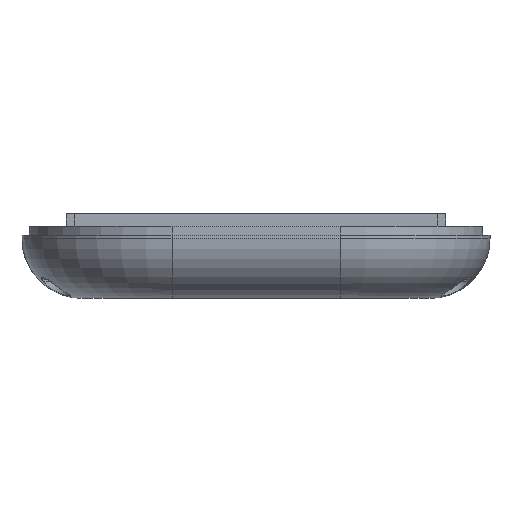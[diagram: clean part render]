
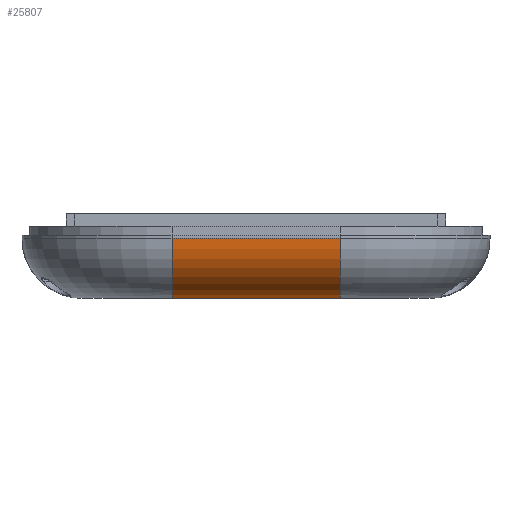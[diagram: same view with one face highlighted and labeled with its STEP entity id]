
A CAD part, front view. The second image highlights one B-rep face of the part: STEP entity #25807.
In plain terms, the highlighted cylindrical face has radius 10 mm (diameter 20 mm), a partial arc.
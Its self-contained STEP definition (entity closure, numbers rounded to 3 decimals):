
#107 = TOROIDAL_SURFACE('',#108,15.,10.);
#108 = AXIS2_PLACEMENT_3D('',#109,#110,#111);
#109 = CARTESIAN_POINT('',(-14.,-50.,-14.));
#110 = DIRECTION('',(0.,0.,-1.));
#111 = DIRECTION('',(-1.,0.,0.));
#1397 = VERTEX_POINT('',#1398);
#1398 = CARTESIAN_POINT('',(-14.,-65.,-24.));
#1413 = PLANE('',#1414);
#1414 = AXIS2_PLACEMENT_3D('',#1415,#1416,#1417);
#1415 = CARTESIAN_POINT('',(0.,0.,-24.));
#1416 = DIRECTION('',(0.,0.,-1.));
#1417 = DIRECTION('',(-1.,0.,0.));
#1429 = EDGE_CURVE('',#1430,#1397,#1432,.T.);
#1430 = VERTEX_POINT('',#1431);
#1431 = CARTESIAN_POINT('',(-14.,-75.,-14.));
#1432 = SURFACE_CURVE('',#1433,(#1438,#1445),.PCURVE_S1.);
#1433 = CIRCLE('',#1434,10.);
#1434 = AXIS2_PLACEMENT_3D('',#1435,#1436,#1437);
#1435 = CARTESIAN_POINT('',(-14.,-65.,-14.));
#1436 = DIRECTION('',(1.,0.,0.));
#1437 = DIRECTION('',(0.,-1.,0.));
#1438 = PCURVE('',#107,#1439);
#1439 = DEFINITIONAL_REPRESENTATION('',(#1440),#1444);
#1440 = LINE('',#1441,#1442);
#1441 = CARTESIAN_POINT('',(4.712,0.));
#1442 = VECTOR('',#1443,1.);
#1443 = DIRECTION('',(0.,1.));
#1444 = ( GEOMETRIC_REPRESENTATION_CONTEXT(2) 
PARAMETRIC_REPRESENTATION_CONTEXT() REPRESENTATION_CONTEXT('2D SPACE',''
  ) );
#1445 = PCURVE('',#1446,#1451);
#1446 = CYLINDRICAL_SURFACE('',#1447,10.);
#1447 = AXIS2_PLACEMENT_3D('',#1448,#1449,#1450);
#1448 = CARTESIAN_POINT('',(7.,-65.,-14.));
#1449 = DIRECTION('',(-1.,0.,0.));
#1450 = DIRECTION('',(0.,-0.707,-0.707));
#1451 = DEFINITIONAL_REPRESENTATION('',(#1452),#1456);
#1452 = LINE('',#1453,#1454);
#1453 = CARTESIAN_POINT('',(7.069,21.));
#1454 = VECTOR('',#1455,1.);
#1455 = DIRECTION('',(-1.,0.));
#1456 = ( GEOMETRIC_REPRESENTATION_CONTEXT(2) 
PARAMETRIC_REPRESENTATION_CONTEXT() REPRESENTATION_CONTEXT('2D SPACE',''
  ) );
#8926 = PLANE('',#8927);
#8927 = AXIS2_PLACEMENT_3D('',#8928,#8929,#8930);
#8928 = CARTESIAN_POINT('',(14.,-75.,-12.));
#8929 = DIRECTION('',(0.,-1.,0.));
#8930 = DIRECTION('',(-1.,0.,0.));
#8972 = VERTEX_POINT('',#8973);
#8973 = CARTESIAN_POINT('',(14.,-65.,-24.));
#8992 = TOROIDAL_SURFACE('',#8993,15.,10.);
#8993 = AXIS2_PLACEMENT_3D('',#8994,#8995,#8996);
#8994 = CARTESIAN_POINT('',(14.,-50.,-14.));
#8995 = DIRECTION('',(0.,0.,-1.));
#8996 = DIRECTION('',(-1.,0.,0.));
#9004 = EDGE_CURVE('',#1397,#8972,#9005,.T.);
#9005 = SURFACE_CURVE('',#9006,(#9010,#9017),.PCURVE_S1.);
#9006 = LINE('',#9007,#9008);
#9007 = CARTESIAN_POINT('',(7.,-65.,-24.));
#9008 = VECTOR('',#9009,1.);
#9009 = DIRECTION('',(1.,0.,0.));
#9010 = PCURVE('',#1413,#9011);
#9011 = DEFINITIONAL_REPRESENTATION('',(#9012),#9016);
#9012 = LINE('',#9013,#9014);
#9013 = CARTESIAN_POINT('',(-7.,-65.));
#9014 = VECTOR('',#9015,1.);
#9015 = DIRECTION('',(-1.,0.));
#9016 = ( GEOMETRIC_REPRESENTATION_CONTEXT(2) 
PARAMETRIC_REPRESENTATION_CONTEXT() REPRESENTATION_CONTEXT('2D SPACE',''
  ) );
#9017 = PCURVE('',#1446,#9018);
#9018 = DEFINITIONAL_REPRESENTATION('',(#9019),#9023);
#9019 = LINE('',#9020,#9021);
#9020 = CARTESIAN_POINT('',(5.498,0.));
#9021 = VECTOR('',#9022,1.);
#9022 = DIRECTION('',(0.,-1.));
#9023 = ( GEOMETRIC_REPRESENTATION_CONTEXT(2) 
PARAMETRIC_REPRESENTATION_CONTEXT() REPRESENTATION_CONTEXT('2D SPACE',''
  ) );
#25807 = ADVANCED_FACE('',(#25808),#1446,.T.);
#25808 = FACE_BOUND('',#25809,.T.);
#25809 = EDGE_LOOP('',(#25810,#25811,#25812,#25836));
#25810 = ORIENTED_EDGE('',*,*,#1429,.T.);
#25811 = ORIENTED_EDGE('',*,*,#9004,.T.);
#25812 = ORIENTED_EDGE('',*,*,#25813,.F.);
#25813 = EDGE_CURVE('',#25814,#8972,#25816,.T.);
#25814 = VERTEX_POINT('',#25815);
#25815 = CARTESIAN_POINT('',(14.,-75.,-14.));
#25816 = SURFACE_CURVE('',#25817,(#25822,#25829),.PCURVE_S1.);
#25817 = CIRCLE('',#25818,10.);
#25818 = AXIS2_PLACEMENT_3D('',#25819,#25820,#25821);
#25819 = CARTESIAN_POINT('',(14.,-65.,-14.));
#25820 = DIRECTION('',(1.,0.,0.));
#25821 = DIRECTION('',(0.,-1.,-0.));
#25822 = PCURVE('',#1446,#25823);
#25823 = DEFINITIONAL_REPRESENTATION('',(#25824),#25828);
#25824 = LINE('',#25825,#25826);
#25825 = CARTESIAN_POINT('',(7.069,-7.));
#25826 = VECTOR('',#25827,1.);
#25827 = DIRECTION('',(-1.,0.));
#25828 = ( GEOMETRIC_REPRESENTATION_CONTEXT(2) 
PARAMETRIC_REPRESENTATION_CONTEXT() REPRESENTATION_CONTEXT('2D SPACE',''
  ) );
#25829 = PCURVE('',#8992,#25830);
#25830 = DEFINITIONAL_REPRESENTATION('',(#25831),#25835);
#25831 = LINE('',#25832,#25833);
#25832 = CARTESIAN_POINT('',(4.712,0.));
#25833 = VECTOR('',#25834,1.);
#25834 = DIRECTION('',(0.,1.));
#25835 = ( GEOMETRIC_REPRESENTATION_CONTEXT(2) 
PARAMETRIC_REPRESENTATION_CONTEXT() REPRESENTATION_CONTEXT('2D SPACE',''
  ) );
#25836 = ORIENTED_EDGE('',*,*,#25837,.T.);
#25837 = EDGE_CURVE('',#25814,#1430,#25838,.T.);
#25838 = SURFACE_CURVE('',#25839,(#25843,#25850),.PCURVE_S1.);
#25839 = LINE('',#25840,#25841);
#25840 = CARTESIAN_POINT('',(7.,-75.,-14.));
#25841 = VECTOR('',#25842,1.);
#25842 = DIRECTION('',(-1.,0.,0.));
#25843 = PCURVE('',#1446,#25844);
#25844 = DEFINITIONAL_REPRESENTATION('',(#25845),#25849);
#25845 = LINE('',#25846,#25847);
#25846 = CARTESIAN_POINT('',(7.069,0.));
#25847 = VECTOR('',#25848,1.);
#25848 = DIRECTION('',(0.,1.));
#25849 = ( GEOMETRIC_REPRESENTATION_CONTEXT(2) 
PARAMETRIC_REPRESENTATION_CONTEXT() REPRESENTATION_CONTEXT('2D SPACE',''
  ) );
#25850 = PCURVE('',#8926,#25851);
#25851 = DEFINITIONAL_REPRESENTATION('',(#25852),#25856);
#25852 = LINE('',#25853,#25854);
#25853 = CARTESIAN_POINT('',(7.,2.));
#25854 = VECTOR('',#25855,1.);
#25855 = DIRECTION('',(1.,0.));
#25856 = ( GEOMETRIC_REPRESENTATION_CONTEXT(2) 
PARAMETRIC_REPRESENTATION_CONTEXT() REPRESENTATION_CONTEXT('2D SPACE',''
  ) );
